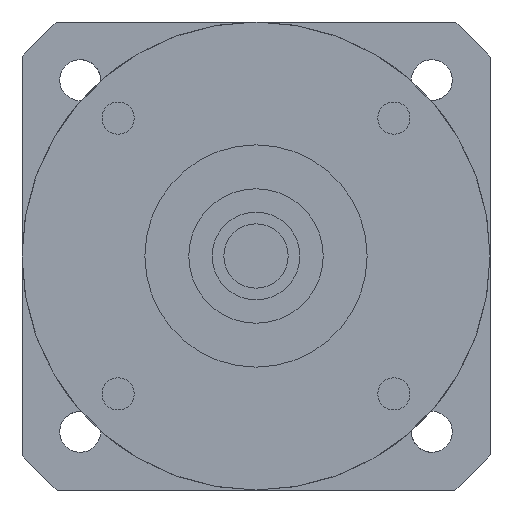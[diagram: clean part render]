
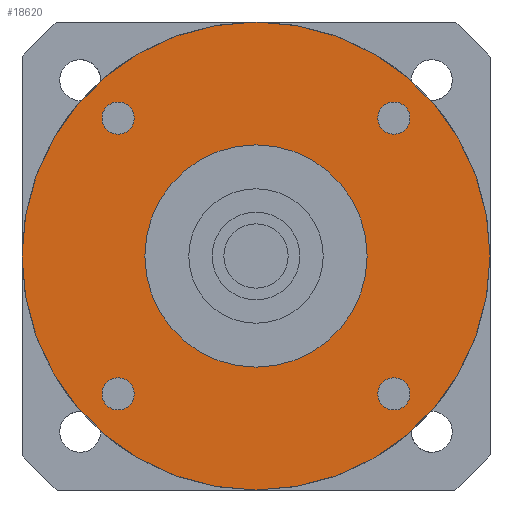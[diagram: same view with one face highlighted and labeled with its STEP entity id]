
A CAD part, left-side view. The second image highlights one B-rep face of the part: STEP entity #18620.
In plain terms, the highlighted planar face has unit normal (-1, 0, 0) as drawn and (0, 0, -1) by its records, which use the part's own axes.
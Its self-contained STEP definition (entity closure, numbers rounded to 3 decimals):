
#17480=CARTESIAN_POINT('',(-40.,0.,-42.));
#17490=VERTEX_POINT('',#17480);
#17580=CARTESIAN_POINT('',(40.,0.,-42.));
#17590=VERTEX_POINT('',#17580);
#17620=CARTESIAN_POINT('',(0.,0.,-42.)
);
#17630=DIRECTION('',(0.,0.,1.));
#17640=DIRECTION('',(1.,0.,0.));
#17650=AXIS2_PLACEMENT_3D('',#17620,#17630,#17640);
#17660=CIRCLE('',#17650,40.);
#17670=CARTESIAN_POINT('',(0.,-40.,-42.));
#17680=VERTEX_POINT('',#17670);
#17690=EDGE_CURVE('',#17680,#17590,#17660,.T.);
#17710=EDGE_CURVE('',#17490,#17680,#17660,.T.);
#17760=CARTESIAN_POINT('',(0.,0.,-42.)
);
#17770=DIRECTION('',(0.,0.,-1.));
#17780=DIRECTION('',(1.,0.,0.));
#17790=AXIS2_PLACEMENT_3D('',#17760,#17770,#17780);
#17800=PLANE('',#17790);
#17810=CARTESIAN_POINT('',(23.571,23.571,-42.));
#17820=DIRECTION('',(0.,0.,-1.));
#17830=DIRECTION('',(0.,1.,0.));
#17840=AXIS2_PLACEMENT_3D('',#17810,#17820,#17830);
#17850=CIRCLE('',#17840,2.75);
#17860=CARTESIAN_POINT('',(23.571,26.321,-42.));
#17870=VERTEX_POINT('',#17860);
#17880=CARTESIAN_POINT('',(23.571,20.821,-42.));
#17890=VERTEX_POINT('',#17880);
#17900=EDGE_CURVE('',#17870,#17890,#17850,.T.);
#17910=ORIENTED_EDGE('',*,*,#17900,.F.);
#17920=EDGE_CURVE('',#17890,#17870,#17850,.T.);
#17930=ORIENTED_EDGE('',*,*,#17920,.F.);
#17940=EDGE_LOOP('',(#17930,#17910));
#17950=FACE_BOUND('',#17940,.T.);
#17960=CARTESIAN_POINT('',(-23.571,23.571,-42.));
#17970=DIRECTION('',(0.,0.,-1.));
#17980=DIRECTION('',(-1.,0.,0.));
#17990=AXIS2_PLACEMENT_3D('',#17960,#17970,#17980);
#18000=CIRCLE('',#17990,2.75);
#18010=CARTESIAN_POINT('',(-26.321,23.571,-42.));
#18020=VERTEX_POINT('',#18010);
#18030=CARTESIAN_POINT('',(-20.821,23.571,-42.));
#18040=VERTEX_POINT('',#18030);
#18050=EDGE_CURVE('',#18020,#18040,#18000,.T.);
#18060=ORIENTED_EDGE('',*,*,#18050,.F.);
#18070=EDGE_CURVE('',#18040,#18020,#18000,.T.);
#18080=ORIENTED_EDGE('',*,*,#18070,.F.);
#18090=EDGE_LOOP('',(#18080,#18060));
#18100=FACE_BOUND('',#18090,.T.);
#18110=CARTESIAN_POINT('',(-23.571,-23.571,-42.));
#18120=DIRECTION('',(0.,0.,-1.));
#18130=DIRECTION('',(0.,-1.,0.));
#18140=AXIS2_PLACEMENT_3D('',#18110,#18120,#18130);
#18150=CIRCLE('',#18140,2.75);
#18160=CARTESIAN_POINT('',(-23.571,-26.321,-42.));
#18170=VERTEX_POINT('',#18160);
#18180=CARTESIAN_POINT('',(-23.571,-20.821,-42.));
#18190=VERTEX_POINT('',#18180);
#18200=EDGE_CURVE('',#18170,#18190,#18150,.T.);
#18210=ORIENTED_EDGE('',*,*,#18200,.F.);
#18220=EDGE_CURVE('',#18190,#18170,#18150,.T.);
#18230=ORIENTED_EDGE('',*,*,#18220,.F.);
#18240=EDGE_LOOP('',(#18230,#18210));
#18250=FACE_BOUND('',#18240,.T.);
#18260=CARTESIAN_POINT('',(0.,0.,
-42.));
#18270=DIRECTION('',(0.,0.,1.));
#18280=DIRECTION('',(1.,0.,0.));
#18290=AXIS2_PLACEMENT_3D('',#18260,#18270,#18280);
#18300=CIRCLE('',#18290,19.);
#18310=CARTESIAN_POINT('',(19.,0.,-42.));
#18320=VERTEX_POINT('',#18310);
#18330=CARTESIAN_POINT('',(-19.,0.,-42.));
#18340=VERTEX_POINT('',#18330);
#18350=EDGE_CURVE('',#18320,#18340,#18300,.T.);
#18360=ORIENTED_EDGE('',*,*,#18350,.T.);
#18370=EDGE_CURVE('',#18340,#18320,#18300,.T.);
#18380=ORIENTED_EDGE('',*,*,#18370,.T.);
#18390=EDGE_LOOP('',(#18380,#18360));
#18400=FACE_BOUND('',#18390,.T.);
#18410=CARTESIAN_POINT('',(23.571,-23.571,-42.));
#18420=DIRECTION('',(0.,0.,-1.));
#18430=DIRECTION('',(1.,0.,0.));
#18440=AXIS2_PLACEMENT_3D('',#18410,#18420,#18430);
#18450=CIRCLE('',#18440,2.75);
#18460=CARTESIAN_POINT('',(26.321,-23.571,-42.));
#18470=VERTEX_POINT('',#18460);
#18480=CARTESIAN_POINT('',(20.821,-23.571,-42.));
#18490=VERTEX_POINT('',#18480);
#18500=EDGE_CURVE('',#18470,#18490,#18450,.T.);
#18510=ORIENTED_EDGE('',*,*,#18500,.F.);
#18520=EDGE_CURVE('',#18490,#18470,#18450,.T.);
#18530=ORIENTED_EDGE('',*,*,#18520,.F.);
#18540=EDGE_LOOP('',(#18530,#18510));
#18550=FACE_BOUND('',#18540,.T.);
#18560=ORIENTED_EDGE('',*,*,#17690,.F.);
#18570=EDGE_CURVE('',#17590,#17490,#17660,.T.);
#18580=ORIENTED_EDGE('',*,*,#18570,.F.);
#18590=ORIENTED_EDGE('',*,*,#17710,.F.);
#18600=EDGE_LOOP('',(#18590,#18580,#18560));
#18610=FACE_OUTER_BOUND('',#18600,.T.);
#18620=ADVANCED_FACE('',(#17950,#18100,#18250,#18400,#18550,#18610),
#17800,.T.);
